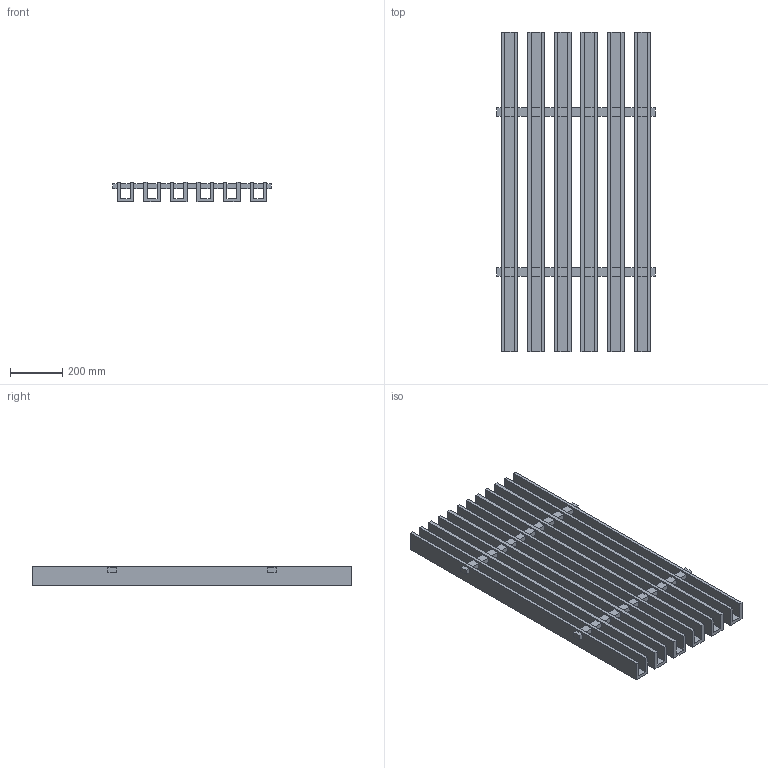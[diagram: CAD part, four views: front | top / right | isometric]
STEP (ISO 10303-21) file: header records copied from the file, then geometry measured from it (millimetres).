
FILE_DESCRIPTION(/* description */ (''),/* implementation_level */ '2;1');
FILE_NAME(/* name */ 'PET GRILLA_2.5x3_4ft',/* time_stamp */ '2024-10-15T14:21:44-05:00',/* author */ (''),/* organization */ (''),/* preprocessor_version */ 'ST-DEVELOPER v19.2',/* originating_system */ 'Rhino 8.4',/* authorisation */ '');
FILE_SCHEMA (('CONFIG_CONTROL_DESIGN'));
Length unit declared in the file: inch
Products named in the file (1): Document
Bounding box: 603.25 x 1219.2 x 76.2 mm (x, y, z)
Volume: 18243411.1 mm3; surface area: 3066929.3 mm2
Topology: 1 solids, 1 shells, 168 faces, 456 edges, 304 vertices
Faces by surface type: plane 168
Entity records: 4712 total; most frequent: CARTESIAN_POINT 1386, ORIENTED_EDGE 912, EDGE_CURVE 456, B_SPLINE_CURVE_WITH_KNOTS 456, VERTEX_POINT 304, EDGE_LOOP 216, DIRECTION 172, AXIS2_PLACEMENT_3D 170
